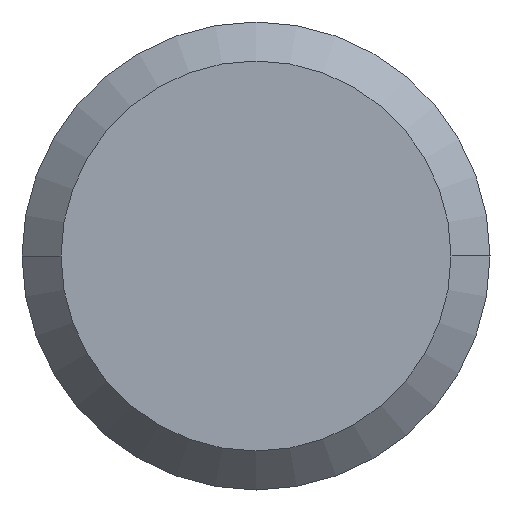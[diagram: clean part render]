
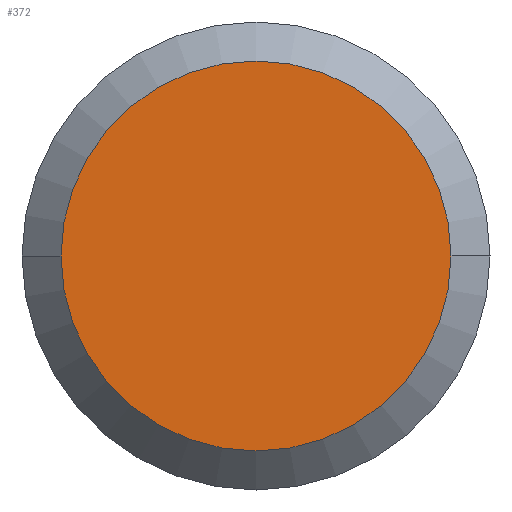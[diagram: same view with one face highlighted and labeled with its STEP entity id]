
A CAD part, left-side view. The second image highlights one B-rep face of the part: STEP entity #372.
In plain terms, the highlighted planar face has unit normal (-1, 0, 0).
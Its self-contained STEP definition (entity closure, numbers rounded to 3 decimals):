
#4 = PLANE ( 'NONE',  #210 ) ;
#17 = DIRECTION ( 'NONE',  ( 1., 0., 0. ) ) ;
#18 = DIRECTION ( 'NONE',  ( 0., 1., 0. ) ) ;
#25 = CARTESIAN_POINT ( 'NONE',  ( -48., 0., 0. ) ) ;
#54 = VERTEX_POINT ( 'NONE', #344 ) ;
#68 = VERTEX_POINT ( 'NONE', #70 ) ;
#70 = CARTESIAN_POINT ( 'NONE',  ( -48., 2.5, 0. ) ) ;
#81 = CARTESIAN_POINT ( 'NONE',  ( -48., 0., 0. ) ) ;
#128 = AXIS2_PLACEMENT_3D ( 'NONE', #25, #17, #291 ) ;
#135 = DIRECTION ( 'NONE',  ( 1., 0., 0. ) ) ;
#143 = ORIENTED_EDGE ( 'NONE', *, *, #421, .F. ) ;
#210 = AXIS2_PLACEMENT_3D ( 'NONE', #81, #361, #457 ) ;
#245 = CARTESIAN_POINT ( 'NONE',  ( -48., 0., 0. ) ) ;
#251 = ORIENTED_EDGE ( 'NONE', *, *, #441, .F. ) ;
#253 = EDGE_LOOP ( 'NONE', ( #251, #143 ) ) ;
#276 = CIRCLE ( 'NONE', #329, 2.5 ) ;
#291 = DIRECTION ( 'NONE',  ( 0., 1., 0. ) ) ;
#329 = AXIS2_PLACEMENT_3D ( 'NONE', #245, #135, #18 ) ;
#332 = CIRCLE ( 'NONE', #128, 2.5 ) ;
#344 = CARTESIAN_POINT ( 'NONE',  ( -48., -2.5, 0. ) ) ;
#361 = DIRECTION ( 'NONE',  ( -1., 0., 0. ) ) ;
#372 = ADVANCED_FACE ( 'NONE', ( #374 ), #4, .T. ) ;
#374 = FACE_OUTER_BOUND ( 'NONE', #253, .T. ) ;
#421 = EDGE_CURVE ( 'NONE', #54, #68, #332, .T. ) ;
#441 = EDGE_CURVE ( 'NONE', #68, #54, #276, .T. ) ;
#457 = DIRECTION ( 'NONE',  ( 0., -1., 0. ) ) ;
